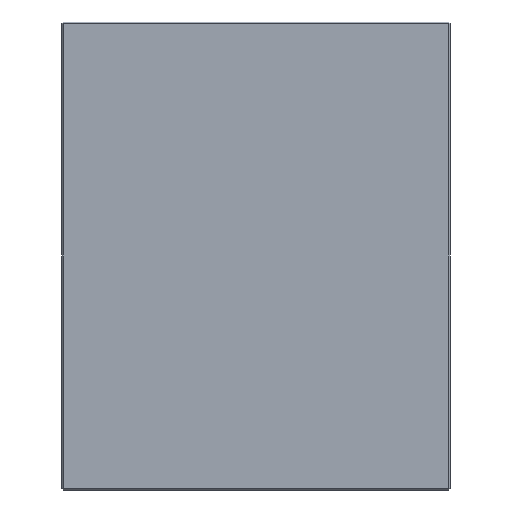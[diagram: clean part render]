
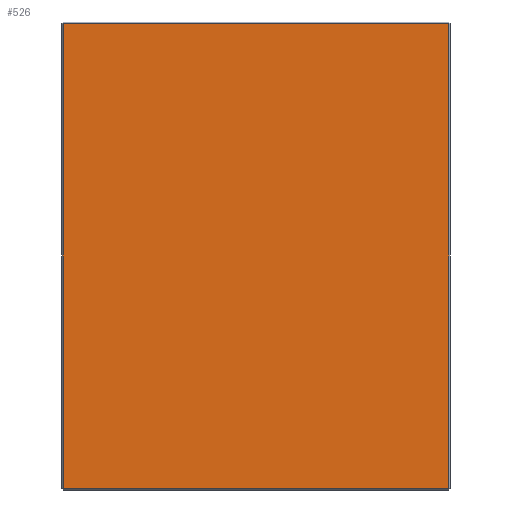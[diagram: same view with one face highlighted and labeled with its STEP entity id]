
A CAD part, front view. The second image highlights one B-rep face of the part: STEP entity #526.
In plain terms, the highlighted planar face has unit normal (0, -1, 0).
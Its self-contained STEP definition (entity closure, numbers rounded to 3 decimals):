
#2 = CARTESIAN_POINT ( 'NONE',  ( 122., 0., 0. ) ) ;
#6 = CARTESIAN_POINT ( 'NONE',  ( 122., 0., -147. ) ) ;
#27 = DIRECTION ( 'NONE',  ( 0., 0., -1. ) ) ;
#42 = LINE ( 'NONE', #606, #76 ) ;
#76 = VECTOR ( 'NONE', #553, 1000. ) ;
#98 = VERTEX_POINT ( 'NONE', #6 ) ;
#116 = EDGE_LOOP ( 'NONE', ( #330, #270, #231, #369 ) ) ;
#141 = EDGE_CURVE ( 'NONE', #206, #98, #42, .T. ) ;
#152 = DIRECTION ( 'NONE',  ( 0., 1., 0. ) ) ;
#166 = LINE ( 'NONE', #317, #202 ) ;
#174 = DIRECTION ( 'NONE',  ( 0., 0., 1. ) ) ;
#175 = EDGE_CURVE ( 'NONE', #213, #206, #166, .T. ) ;
#186 = DIRECTION ( 'NONE',  ( 0., 0., 1. ) ) ;
#202 = VECTOR ( 'NONE', #27, 1000. ) ;
#206 = VERTEX_POINT ( 'NONE', #575 ) ;
#213 = VERTEX_POINT ( 'NONE', #293 ) ;
#231 = ORIENTED_EDGE ( 'NONE', *, *, #175, .T. ) ;
#270 = ORIENTED_EDGE ( 'NONE', *, *, #350, .T. ) ;
#277 = VECTOR ( 'NONE', #312, 1000. ) ;
#293 = CARTESIAN_POINT ( 'NONE',  ( -122., 0., 147. ) ) ;
#305 = LINE ( 'NONE', #457, #277 ) ;
#312 = DIRECTION ( 'NONE',  ( -1., 0., 0. ) ) ;
#317 = CARTESIAN_POINT ( 'NONE',  ( -122., 0., 0. ) ) ;
#330 = ORIENTED_EDGE ( 'NONE', *, *, #551, .T. ) ;
#342 = CARTESIAN_POINT ( 'NONE',  ( 0., 0., 0. ) ) ;
#347 = AXIS2_PLACEMENT_3D ( 'NONE', #342, #152, #174 ) ;
#350 = EDGE_CURVE ( 'NONE', #531, #213, #305, .T. ) ;
#366 = PLANE ( 'NONE',  #347 ) ;
#369 = ORIENTED_EDGE ( 'NONE', *, *, #141, .T. ) ;
#455 = CARTESIAN_POINT ( 'NONE',  ( 122., 0., 147. ) ) ;
#457 = CARTESIAN_POINT ( 'NONE',  ( 0., 0., 147. ) ) ;
#499 = VECTOR ( 'NONE', #186, 1000. ) ;
#526 = ADVANCED_FACE ( 'NONE', ( #564 ), #366, .F. ) ;
#531 = VERTEX_POINT ( 'NONE', #455 ) ;
#539 = LINE ( 'NONE', #2, #499 ) ;
#551 = EDGE_CURVE ( 'NONE', #98, #531, #539, .T. ) ;
#553 = DIRECTION ( 'NONE',  ( 1., 0., 0. ) ) ;
#564 = FACE_OUTER_BOUND ( 'NONE', #116, .T. ) ;
#575 = CARTESIAN_POINT ( 'NONE',  ( -122., 0., -147. ) ) ;
#606 = CARTESIAN_POINT ( 'NONE',  ( 0., 0., -147. ) ) ;
